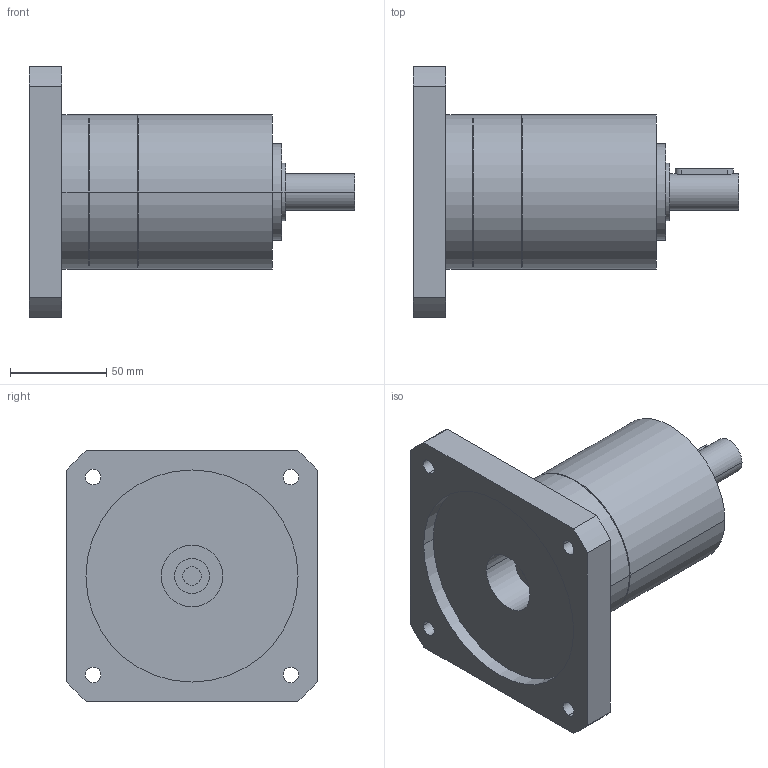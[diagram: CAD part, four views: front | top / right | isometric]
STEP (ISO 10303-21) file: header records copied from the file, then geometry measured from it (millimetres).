
FILE_DESCRIPTION(('CoCreate Modeling STEP Export'),'2;1');
FILE_NAME('GPR100_ig-3-4-5-6_19_B14_9.52_P18.stp','2014-08-26T10:09:46',(''),(''),'CoCreate Modeling STEP processor for AP214 (Solid Model)','CoCreate Modeling 16.00C 25-Feb-2009 (C) Parametric Technology GmbH','');
FILE_SCHEMA(('AUTOMOTIVE_DESIGN { 1 0 10303 214 1 1 1 1 }'));
Length unit declared in the file: millimetre
Products named in the file (2): GPR100_ig-3-4-5-6_19_B14_9.52_P18
Assembly tree (1 placements, depth 2):
  GPR100_ig-3-4-5-6_19_B14_9.52_P18
    GPR100_ig-3-4-5-6_19_B14_9.52_P18
Bounding box: 169 x 130 x 130 mm (x, y, z)
Volume: 762604.7 mm3; surface area: 81855.8 mm2
Topology: 1 solids, 1 shells, 73 faces, 194 edges, 136 vertices
Faces by surface type: cylinder 44, plane 23, cone 6
Entity records: 2004 total; most frequent: ORIENTED_EDGE 384, CARTESIAN_POINT 370, DIRECTION 272, EDGE_CURVE 192, VERTEX_POINT 136, AXIS2_PLACEMENT_3D 102, EDGE_LOOP 96, FACE_OUTER_BOUND 73
